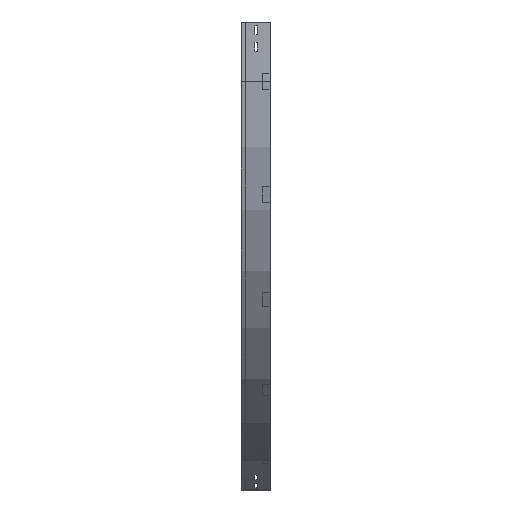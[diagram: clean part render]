
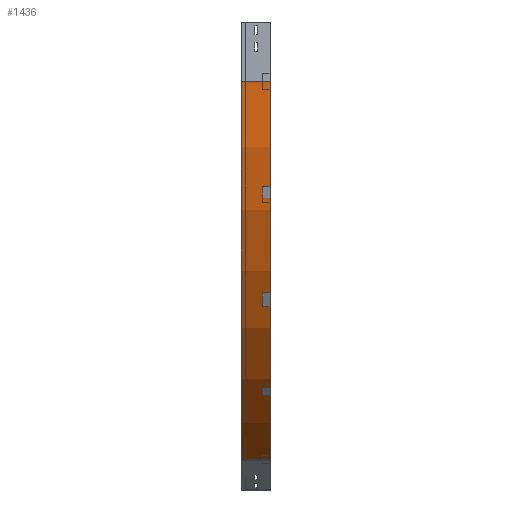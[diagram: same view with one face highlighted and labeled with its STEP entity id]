
A CAD part, left-side view. The second image highlights one B-rep face of the part: STEP entity #1436.
In plain terms, the highlighted cylindrical face has radius 1100 mm (diameter 2200 mm), a partial arc.
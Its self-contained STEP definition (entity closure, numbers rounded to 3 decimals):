
#26 = CARTESIAN_POINT ( 'NONE',  ( 1100., 75., -150. ) ) ;
#122 = VERTEX_POINT ( 'NONE', #3765 ) ;
#207 = VERTEX_POINT ( 'NONE', #865 ) ;
#307 = CIRCLE ( 'NONE', #2983, 1100. ) ;
#483 = EDGE_LOOP ( 'NONE', ( #3476, #3517, #911, #1778 ) ) ;
#596 = CARTESIAN_POINT ( 'NONE',  ( 1100., 0., -150. ) ) ;
#604 = CARTESIAN_POINT ( 'NONE',  ( 0., 0., -150. ) ) ;
#797 = AXIS2_PLACEMENT_3D ( 'NONE', #596, #2429, #1758 ) ;
#865 = CARTESIAN_POINT ( 'NONE',  ( 550., 0., -1102.628 ) ) ;
#868 = VERTEX_POINT ( 'NONE', #1012 ) ;
#911 = ORIENTED_EDGE ( 'NONE', *, *, #3666, .T. ) ;
#1012 = CARTESIAN_POINT ( 'NONE',  ( 550., 75., -1102.628 ) ) ;
#1177 = FACE_OUTER_BOUND ( 'NONE', #483, .T. ) ;
#1202 = DIRECTION ( 'NONE',  ( 0., -1., 0. ) ) ;
#1239 = EDGE_CURVE ( 'NONE', #3554, #207, #307, .T. ) ;
#1409 = AXIS2_PLACEMENT_3D ( 'NONE', #26, #1202, #3607 ) ;
#1436 = ADVANCED_FACE ( 'NONE', ( #1177 ), #3283, .T. ) ;
#1495 = EDGE_CURVE ( 'NONE', #868, #207, #2816, .T. ) ;
#1583 = DIRECTION ( 'NONE',  ( 0., -1., 0. ) ) ;
#1758 = DIRECTION ( 'NONE',  ( 0., 0., -1. ) ) ;
#1778 = ORIENTED_EDGE ( 'NONE', *, *, #1495, .T. ) ;
#1840 = VECTOR ( 'NONE', #2936, 1000. ) ;
#2099 = LINE ( 'NONE', #3300, #1840 ) ;
#2429 = DIRECTION ( 'NONE',  ( 0., -1., 0. ) ) ;
#2488 = DIRECTION ( 'NONE',  ( 0., -1., 0. ) ) ;
#2816 = LINE ( 'NONE', #3674, #3465 ) ;
#2936 = DIRECTION ( 'NONE',  ( 0., -1., 0. ) ) ;
#2983 = AXIS2_PLACEMENT_3D ( 'NONE', #3658, #2488, #3695 ) ;
#3111 = EDGE_CURVE ( 'NONE', #122, #3554, #2099, .T. ) ;
#3283 = CYLINDRICAL_SURFACE ( 'NONE', #797, 1100. ) ;
#3300 = CARTESIAN_POINT ( 'NONE',  ( 0., 0., -150. ) ) ;
#3465 = VECTOR ( 'NONE', #1583, 1000. ) ;
#3476 = ORIENTED_EDGE ( 'NONE', *, *, #1239, .F. ) ;
#3517 = ORIENTED_EDGE ( 'NONE', *, *, #3111, .F. ) ;
#3554 = VERTEX_POINT ( 'NONE', #604 ) ;
#3607 = DIRECTION ( 'NONE',  ( -1., 0., 0. ) ) ;
#3658 = CARTESIAN_POINT ( 'NONE',  ( 1100., 0., -150. ) ) ;
#3666 = EDGE_CURVE ( 'NONE', #122, #868, #3682, .T. ) ;
#3674 = CARTESIAN_POINT ( 'NONE',  ( 550., 0., -1102.628 ) ) ;
#3682 = CIRCLE ( 'NONE', #1409, 1100. ) ;
#3695 = DIRECTION ( 'NONE',  ( -1., 0., 0. ) ) ;
#3765 = CARTESIAN_POINT ( 'NONE',  ( 0., 75., -150. ) ) ;
